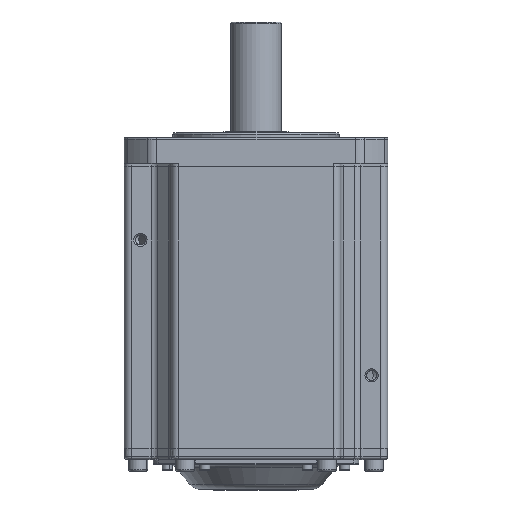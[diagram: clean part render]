
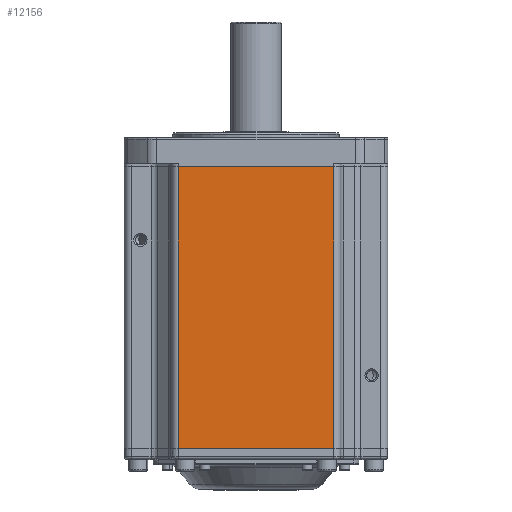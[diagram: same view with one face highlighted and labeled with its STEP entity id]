
A CAD part, front view. The second image highlights one B-rep face of the part: STEP entity #12156.
In plain terms, the highlighted planar face has unit normal (0, -1, 0).
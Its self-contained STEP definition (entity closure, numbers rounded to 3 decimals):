
#227 = ORIENTED_EDGE ( 'NONE', *, *, #24787, .T. ) ;
#1114 = CARTESIAN_POINT ( 'NONE',  ( -52.974, -89.007, -896.673 ) ) ;
#1888 = EDGE_LOOP ( 'NONE', ( #5988, #53725, #227, #53216 ) ) ;
#2201 = DIRECTION ( 'NONE',  ( 0., 0., -1. ) ) ;
#4906 = LINE ( 'NONE', #38865, #47479 ) ;
#5988 = ORIENTED_EDGE ( 'NONE', *, *, #44975, .T. ) ;
#6802 = VECTOR ( 'NONE', #46097, 1000. ) ;
#6951 = DIRECTION ( 'NONE',  ( 0., 1., 0. ) ) ;
#7036 = CARTESIAN_POINT ( 'NONE',  ( 53.026, -89.007, -896.673 ) ) ;
#7552 = CARTESIAN_POINT ( 'NONE',  ( 53.026, -89.007, -89.273 ) ) ;
#12156 = ADVANCED_FACE ( 'NONE', ( #49617 ), #31817, .F. ) ;
#13889 = VERTEX_POINT ( 'NONE', #33545 ) ;
#14760 = CARTESIAN_POINT ( 'NONE',  ( 53.026, -89.007, 103.327 ) ) ;
#23391 = DIRECTION ( 'NONE',  ( -1., 0., 0. ) ) ;
#24787 = EDGE_CURVE ( 'NONE', #47786, #63316, #57138, .T. ) ;
#25530 = CARTESIAN_POINT ( 'NONE',  ( -52.974, -89.007, -89.273 ) ) ;
#25556 = LINE ( 'NONE', #48224, #48696 ) ;
#31707 = DIRECTION ( 'NONE',  ( 0., 0., 1. ) ) ;
#31817 = PLANE ( 'NONE',  #54288 ) ;
#31984 = EDGE_CURVE ( 'NONE', #63316, #13889, #25556, .T. ) ;
#33545 = CARTESIAN_POINT ( 'NONE',  ( -52.974, -89.007, 103.327 ) ) ;
#38865 = CARTESIAN_POINT ( 'NONE',  ( -154.318, -89.007, -89.273 ) ) ;
#39350 = LINE ( 'NONE', #1114, #6802 ) ;
#40874 = VERTEX_POINT ( 'NONE', #25530 ) ;
#40945 = VECTOR ( 'NONE', #31707, 1000. ) ;
#44975 = EDGE_CURVE ( 'NONE', #13889, #40874, #39350, .T. ) ;
#46097 = DIRECTION ( 'NONE',  ( 0., 0., -1. ) ) ;
#47479 = VECTOR ( 'NONE', #48543, 1000. ) ;
#47786 = VERTEX_POINT ( 'NONE', #7552 ) ;
#48224 = CARTESIAN_POINT ( 'NONE',  ( 58.026, -89.007, 103.327 ) ) ;
#48404 = EDGE_CURVE ( 'NONE', #40874, #47786, #4906, .T. ) ;
#48543 = DIRECTION ( 'NONE',  ( 1., 0., 0. ) ) ;
#48696 = VECTOR ( 'NONE', #23391, 1000. ) ;
#49617 = FACE_OUTER_BOUND ( 'NONE', #1888, .T. ) ;
#53216 = ORIENTED_EDGE ( 'NONE', *, *, #31984, .T. ) ;
#53725 = ORIENTED_EDGE ( 'NONE', *, *, #48404, .T. ) ;
#54288 = AXIS2_PLACEMENT_3D ( 'NONE', #56242, #6951, #2201 ) ;
#56242 = CARTESIAN_POINT ( 'NONE',  ( 58.026, -89.007, -896.673 ) ) ;
#57138 = LINE ( 'NONE', #7036, #40945 ) ;
#63316 = VERTEX_POINT ( 'NONE', #14760 ) ;
